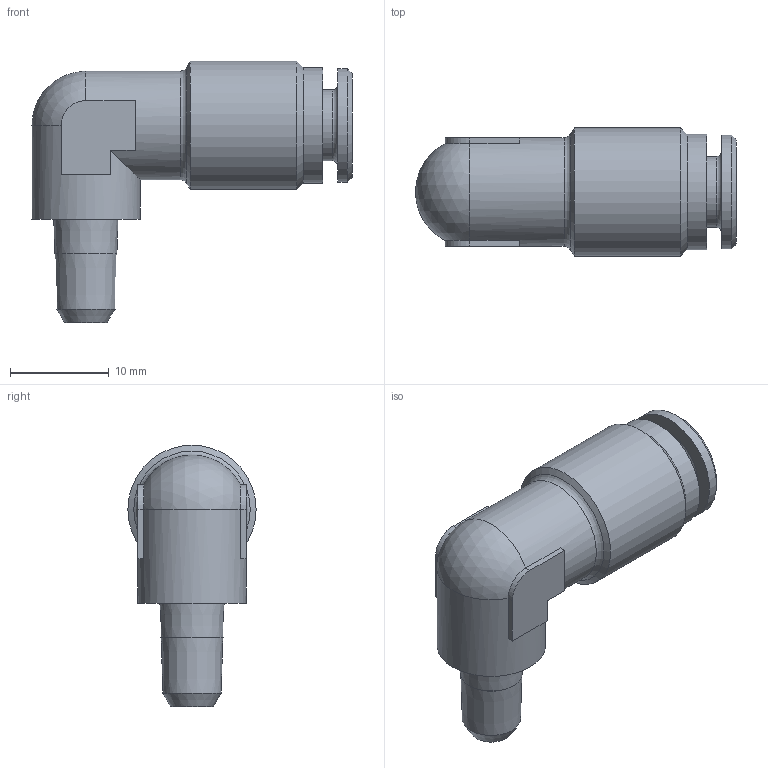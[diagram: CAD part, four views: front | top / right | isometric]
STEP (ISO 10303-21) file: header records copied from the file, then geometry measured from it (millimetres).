
FILE_DESCRIPTION(/* description */ (''),/* implementation_level */ '2;1');
FILE_NAME(/* name */ 'H190606_HDS019_6_M6X1K_04.05.17',/* time_stamp */ '2017-05-04T12:28:39+02:00',/* author */ (''),/* organization */ (''),/* preprocessor_version */ 'ST-DEVELOPER v16.5',/* originating_system */ 'HiCAD 2016 2102.1 Build 498',/* authorisation */ '');
FILE_SCHEMA (('AUTOMOTIVE_DESIGN { 1 0 10303 214 1 1 1 1 }'));
Length unit declared in the file: millimetre
Products named in the file (3): Root; DR6-C_HDX_25.07.16; RH190606
Assembly tree (2 placements, depth 2):
  Root
    DR6-C_HDX_25.07.16
    RH190606
Bounding box: 32.5 x 13 x 26.5 mm (x, y, z)
Volume: 2942.1 mm3; surface area: 3177.8 mm2
Topology: 2 solids, 2 shells, 62 faces, 131 edges, 78 vertices
Faces by surface type: plane 27, cylinder 15, cone 14, torus 5, sphere 1
Full cylindrical faces by diameter (mm): 3 x1, 4 x1, 6.2 x1, 6.3 x1, 7.2 x1, 9.9 x1, 10 x1, 10.3 x1, 11 x2, 11.5 x1, 11.7 x1, 13 x1
Entity records: 2572 total; most frequent: CARTESIAN_POINT 374, DIRECTION 278, PRESENTATION_STYLE_ASSIGNMENT 188, COLOUR_RGB 188, DRAUGHTING_PRE_DEFINED_CURVE_FONT 186, CURVE_STYLE 186, OVER_RIDING_STYLED_ITEM 186, ORIENTED_EDGE 186
